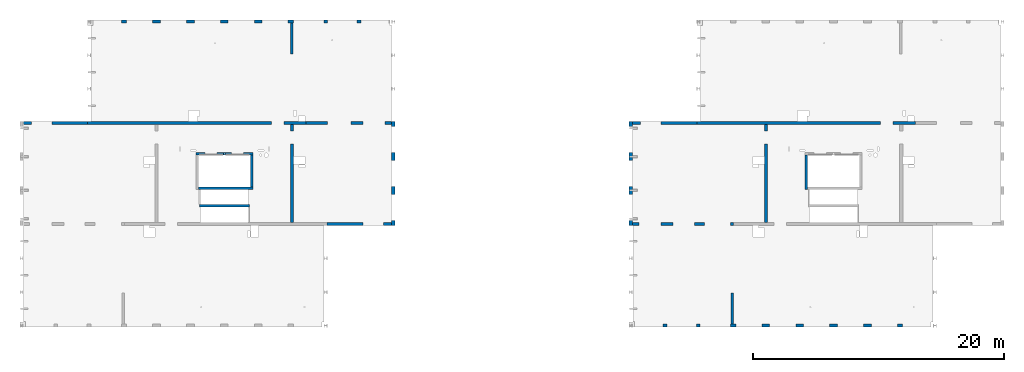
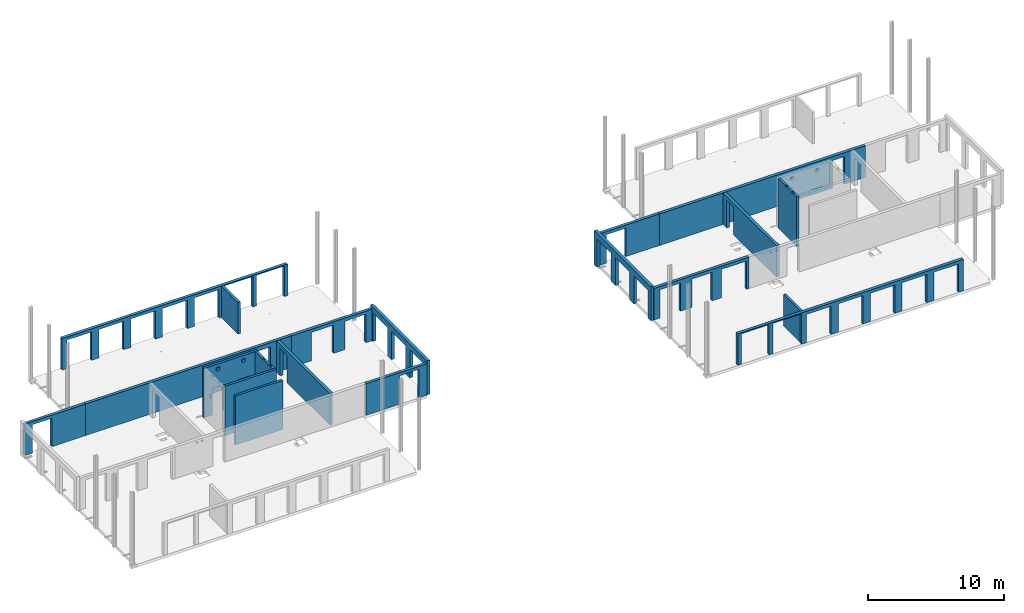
# One storey, part 7 of 10: 20 walls, 46 openings.
"""IFC2X3 building model written with IfcOpenShell, lengths in millimetres."""

from ifc_helpers import new_model, entity, si_unit, converted_unit, derived_unit, direction, frame, frame_2d, origin, origin_2d_with_axis, place, context, subcontext, project, spatial, rectangle, circle, extrude, material, layer, layer_set, layer_usage, type_object, element, save


model = new_model("IFC2X3")

# Units and contexts
model_context = context("Model", 3, precision=0.01, world=origin(), true_north=direction((6.12303176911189e-17, 1.0)))
body_context = subcontext(model_context, "Body", "Model", "MODEL_VIEW")
ifc_project = project(units=[si_unit("LENGTHUNIT", "METRE", prefix="MILLI"), si_unit("AREAUNIT", "SQUARE_METRE"), si_unit("VOLUMEUNIT", "CUBIC_METRE"), converted_unit("PLANEANGLEUNIT", "DEGREE", entity("IfcRatioMeasure", 0.0174532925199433), si_unit("PLANEANGLEUNIT", "RADIAN"), dimensions=[0, 0, 0, 0, 0, 0, 0]), si_unit("MASSUNIT", "GRAM", prefix="KILO"), derived_unit("MASSDENSITYUNIT", [(si_unit("MASSUNIT", "GRAM", prefix="KILO"), 1), (si_unit("LENGTHUNIT", "METRE"), -3)]), si_unit("TIMEUNIT", "SECOND"), si_unit("FREQUENCYUNIT", "HERTZ"), si_unit("THERMODYNAMICTEMPERATUREUNIT", "DEGREE_CELSIUS"), derived_unit("THERMALTRANSMITTANCEUNIT", [(si_unit("MASSUNIT", "GRAM", prefix="KILO"), 1), (si_unit("THERMODYNAMICTEMPERATUREUNIT", "KELVIN"), -1), (si_unit("TIMEUNIT", "SECOND"), -3)]), derived_unit("VOLUMETRICFLOWRATEUNIT", [(si_unit("LENGTHUNIT", "METRE"), 3), (si_unit("TIMEUNIT", "SECOND"), -1)]), si_unit("ELECTRICCURRENTUNIT", "AMPERE"), si_unit("ELECTRICVOLTAGEUNIT", "VOLT"), si_unit("POWERUNIT", "WATT"), si_unit("FORCEUNIT", "NEWTON", prefix="KILO"), si_unit("ILLUMINANCEUNIT", "LUX"), si_unit("LUMINOUSFLUXUNIT", "LUMEN"), si_unit("LUMINOUSINTENSITYUNIT", "CANDELA"), derived_unit("USERDEFINED", [(si_unit("MASSUNIT", "GRAM", prefix="KILO"), -1), (si_unit("LENGTHUNIT", "METRE"), -2), (si_unit("TIMEUNIT", "SECOND"), 3), (si_unit("LUMINOUSFLUXUNIT", "LUMEN"), 1)]), derived_unit("LINEARVELOCITYUNIT", [(si_unit("LENGTHUNIT", "METRE"), 1), (si_unit("TIMEUNIT", "SECOND"), -1)]), si_unit("PRESSUREUNIT", "PASCAL"), derived_unit("USERDEFINED", [(si_unit("LENGTHUNIT", "METRE"), -2), (si_unit("MASSUNIT", "GRAM", prefix="KILO"), 1), (si_unit("TIMEUNIT", "SECOND"), -2)])], contexts=[model_context])

# Site, building, storey
site_placement = place(None, origin())
site = spatial("IfcSite", under=ifc_project, at=site_placement, Name="Default", CompositionType="ELEMENT")
building_placement = place(site_placement, origin())
building = spatial("IfcBuilding", under=site, at=building_placement, Name="niet gebruiken", CompositionType="ELEMENT")
storey_placement = place(building_placement, frame((0.0, 0.0, 63090.0)))
storey = spatial("IfcBuildingStorey", under=building, at=storey_placement, Name="21 eenentwintigste verdieping", CompositionType="ELEMENT", Elevation=63090.0)

# Wall, opening
ifc_material_1 = material(Name="NLRS_f2_beton ihwg")
ifc_layer_1 = layer(ifc_material_1, 250.0)
ifc_layer_set_1 = layer_set([ifc_layer_1], Name="Basic Wall:NLRS_22.21_WA_beton ihwg d=250_gen")
ifc_layer_usage_1 = layer_usage(ifc_layer_set_1, "AXIS2", "NEGATIVE", 125.0)
wall_type_1 = type_object("IfcWallType", Name="Basic Wall:NLRS_22.21_WA_beton ihwg d=250_gen", PredefinedType="STANDARD", material=ifc_layer_set_1)
wall_1_placement = place(storey_placement, frame((75770.0, 45031.0, -90.0)))
wall_1 = element("IfcWallStandardCase", 1, at=wall_1_placement, inside=storey, type_object=wall_type_1, material=ifc_layer_usage_1, Name="Basic Wall:NLRS_22.21_WA_beton ihwg d=250_gen", ObjectType="Basic Wall:NLRS_22.21_WA_beton ihwg d=250_gen", context=body_context, shape_type="SweptSolid", body=[
    extrude(rectangle(XDim=5130.0, YDim=249.999999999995, at=frame_2d((2565.0, 0.0), x_axis=(-1.0, 0.0))), origin(), (0.0, 0.0, 1.0), 2820.00000000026),
])
opening_1_placement = place(wall_1_placement, origin())
element("IfcOpeningElement", 2, at=opening_1_placement, cuts=wall_1, Name="Basic Wall:NLRS_22.21_WA_beton ihwg d=250_gen", ObjectType="Opening", context=body_context, shape_type="SweptSolid", body=[
    extrude(rectangle(XDim=2540.0, YDim=1640.0, at=frame_2d((-4.32009983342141e-12, 4.37694325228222e-12), x_axis=(1.0, 0.0))), frame((1460.0, -1649.0, 1270.0), z_axis=(0.0, 1.0, 0.0), x_axis=(0.0, 0.0, 1.0)), (0.0, 0.0, 1.0), 3048.0),
])

ifc_layer_usage_2 = layer_usage(ifc_layer_set_1, "AXIS2", "NEGATIVE", 125.0)
wall_2_placement = place(storey_placement, frame((86400.0, 44906.0, -90.0), z_axis=(0.0, 0.0, 1.0), x_axis=(0.0, -1.0, 0.0)))
wall_2 = element("IfcWallStandardCase", 3, at=wall_2_placement, inside=storey, type_object=wall_type_1, material=ifc_layer_usage_2, Name="Basic Wall:NLRS_22.21_WA_beton ihwg d=250_gen", ObjectType="Basic Wall:NLRS_22.21_WA_beton ihwg d=250_gen", context=body_context, shape_type="SweptSolid", body=[
    extrude(rectangle(XDim=7799.99999999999, YDim=250.000000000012, at=frame_2d((3900.0, 0.0), x_axis=(-1.0, 0.0))), origin(), (0.0, 0.0, 1.0), 2820.00000000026),
])
opening_2_placement = place(wall_2_placement, origin())
element("IfcOpeningElement", 4, at=opening_2_placement, cuts=wall_2, Name="Basic Wall:NLRS_22.21_WA_beton ihwg d=250_gen", ObjectType="Opening", context=body_context, shape_type="SweptSolid", body=[
    extrude(rectangle(XDim=2470.0, YDim=1006.0, at=frame_2d((4.43378667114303e-12, 0.0), x_axis=(1.0, 0.0))), frame((1027.0, -1649.0, 1235.0), z_axis=(0.0, 1.0, 0.0), x_axis=(0.0, 0.0, 1.0)), (0.0, 0.0, 1.0), 3048.0),
])

# Wall, openings
ifc_layer_usage_3 = layer_usage(ifc_layer_set_1, "AXIS2", "NEGATIVE", 125.0)
wall_3_placement = place(storey_placement, frame((75770.0, 36981.0, -90.0)))
wall_3 = element("IfcWallStandardCase", 5, at=wall_3_placement, inside=storey, type_object=wall_type_1, material=ifc_layer_usage_3, Name="Basic Wall:NLRS_22.21_WA_beton ihwg d=250_gen", ObjectType="Basic Wall:NLRS_22.21_WA_beton ihwg d=250_gen", context=body_context, shape_type="SweptSolid", body=[
    extrude(rectangle(XDim=8060.0, YDim=250.000000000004, at=frame_2d((4030.0, 0.0), x_axis=(-1.0, 0.0))), origin(), (0.0, 0.0, 1.0), 2820.00000000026),
])
opening_3_placement = place(wall_3_placement, origin())
element("IfcOpeningElement", 6, at=opening_3_placement, cuts=wall_3, Name="Basic Wall:NLRS_22.21_WA_beton ihwg d=250_gen", ObjectType="Opening", context=body_context, shape_type="SweptSolid", body=[
    extrude(rectangle(XDim=2540.0, YDim=2110.00000000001, at=frame_2d((-4.32009983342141e-12, 0.0), x_axis=(1.0, 0.0))), frame((6775.0, -1649.0, 1270.0), z_axis=(0.0, 1.0, 0.0), x_axis=(0.0, 0.0, 1.0)), (0.0, 0.0, 1.0), 3048.0),
])
opening_4_placement = place(wall_3_placement, origin())
element("IfcOpeningElement", 7, at=opening_4_placement, cuts=wall_3, Name="Basic Wall:NLRS_22.21_WA_beton ihwg d=250_gen", ObjectType="Opening", context=body_context, shape_type="SweptSolid", body=[
    extrude(rectangle(XDim=2540.0, YDim=1690.0, at=frame_2d((-4.32009983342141e-12, 0.0), x_axis=(1.0, 0.0))), frame((4075.0, -1649.0, 1270.0), z_axis=(0.0, 1.0, 0.0), x_axis=(0.0, 0.0, 1.0)), (0.0, 0.0, 1.0), 3048.0),
])
opening_5_placement = place(wall_3_placement, origin())
element("IfcOpeningElement", 8, at=opening_5_placement, cuts=wall_3, Name="Basic Wall:NLRS_22.21_WA_beton ihwg d=250_gen", ObjectType="Opening", context=body_context, shape_type="SweptSolid", body=[
    extrude(rectangle(XDim=2540.0, YDim=1765.0, at=frame_2d((-4.32009983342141e-12, 0.0), x_axis=(1.0, 0.0))), frame((1382.50000000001, -1649.0, 1270.0), z_axis=(0.0, 1.0, 0.0), x_axis=(0.0, 0.0, 1.0)), (0.0, 0.0, 1.0), 3048.0),
])
opening_6_placement = place(wall_3_placement, origin())
element("IfcOpeningElement", 9, at=opening_6_placement, cuts=wall_3, Name="Basic Wall:NLRS_22.21_WA_beton ihwg d=250_gen", ObjectType="Opening", context=body_context, shape_type="SweptSolid", body=[
    extrude(circle(Radius=80.0, at=origin_2d_with_axis()), frame((9905.00025861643, -125.0, 2590.0), z_axis=(0.0, 1.0, 0.0), x_axis=(1.0, 0.0, 0.0)), (0.0, 0.0, 1.0), 249.999999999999),
])
opening_7_placement = place(wall_3_placement, origin())
element("IfcOpeningElement", 10, at=opening_7_placement, cuts=wall_3, Name="Basic Wall:NLRS_22.21_WA_beton ihwg d=250_gen", ObjectType="Opening", context=body_context, shape_type="SweptSolid", body=[
    extrude(circle(Radius=80.0, at=origin_2d_with_axis()), frame((10355.0002586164, -125.0, 2590.0), z_axis=(0.0, 1.0, 0.0), x_axis=(1.0, 0.0, 0.0)), (0.0, 0.0, 1.0), 249.999999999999),
])
opening_8_placement = place(wall_3_placement, origin())
element("IfcOpeningElement", 11, at=opening_8_placement, cuts=wall_3, Name="Basic Wall:NLRS_22.21_WA_beton ihwg d=250_gen", ObjectType="Opening", context=body_context, shape_type="SweptSolid", body=[
    extrude(circle(Radius=80.0, at=origin_2d_with_axis()), frame((10355.0002586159, -125.0, 2590.0), z_axis=(0.0, 1.0, 0.0), x_axis=(1.0, 0.0, 0.0)), (0.0, 0.0, 1.0), 249.999999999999),
])
opening_9_placement = place(wall_3_placement, origin())
element("IfcOpeningElement", 12, at=opening_9_placement, cuts=wall_3, Name="Basic Wall:NLRS_22.21_WA_beton ihwg d=250_gen", ObjectType="Opening", context=body_context, shape_type="SweptSolid", body=[
    extrude(circle(Radius=80.0, at=origin_2d_with_axis()), frame((9905.00025861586, -125.0, 2590.0), z_axis=(0.0, 1.0, 0.0), x_axis=(1.0, 0.0, 0.0)), (0.0, 0.0, 1.0), 249.999999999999),
])

# Wall, opening
ifc_layer_usage_4 = layer_usage(ifc_layer_set_1, "AXIS2", "NEGATIVE", 125.0)
wall_4_placement = place(storey_placement, frame((27170.0, 45031.0, -90.0)))
wall_4 = element("IfcWallStandardCase", 13, at=wall_4_placement, inside=storey, type_object=wall_type_1, material=ifc_layer_usage_4, Name="Basic Wall:NLRS_22.21_WA_beton ihwg d=250_gen", ObjectType="Basic Wall:NLRS_22.21_WA_beton ihwg d=250_gen", context=body_context, shape_type="SweptSolid", body=[
    extrude(rectangle(XDim=5130.0, YDim=249.999999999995, at=frame_2d((2565.0, 0.0), x_axis=(-1.0, 0.0))), origin(), (0.0, 0.0, 1.0), 2820.00000000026),
])
opening_10_placement = place(wall_4_placement, origin())
element("IfcOpeningElement", 14, at=opening_10_placement, cuts=wall_4, Name="Basic Wall:NLRS_22.21_WA_beton ihwg d=250_gen", ObjectType="Opening", context=body_context, shape_type="SweptSolid", body=[
    extrude(rectangle(XDim=2540.0, YDim=1640.0, at=frame_2d((-4.32009983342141e-12, -4.37694325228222e-12), x_axis=(1.0, 0.0))), frame((1460.0, -1649.0, 1270.0), z_axis=(0.0, 1.0, 0.0), x_axis=(0.0, 0.0, 1.0)), (0.0, 0.0, 1.0), 3048.0),
])

ifc_layer_usage_5 = layer_usage(ifc_layer_set_1, "AXIS2", "NEGATIVE", 125.0)
wall_5_placement = place(storey_placement, frame((48600.0, 44906.0, -90.0), z_axis=(0.0, 0.0, 1.0), x_axis=(0.0, -1.0, 0.0)))
wall_5 = element("IfcWallStandardCase", 15, at=wall_5_placement, inside=storey, type_object=wall_type_1, material=ifc_layer_usage_5, Name="Basic Wall:NLRS_22.21_WA_beton ihwg d=250_gen", ObjectType="Basic Wall:NLRS_22.21_WA_beton ihwg d=250_gen", context=body_context, shape_type="SweptSolid", body=[
    extrude(rectangle(XDim=7799.99999999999, YDim=249.999999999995, at=frame_2d((3900.0, 0.0), x_axis=(-1.0, 0.0))), origin(), (0.0, 0.0, 1.0), 2820.00000000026),
])
opening_11_placement = place(wall_5_placement, origin())
element("IfcOpeningElement", 16, at=opening_11_placement, cuts=wall_5, Name="Basic Wall:NLRS_22.21_WA_beton ihwg d=250_gen", ObjectType="Opening", context=body_context, shape_type="SweptSolid", body=[
    extrude(rectangle(XDim=2470.0, YDim=1006.0, at=frame_2d((4.43378667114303e-12, 0.0), x_axis=(1.0, 0.0))), frame((1027.0, -1649.0, 1235.0), z_axis=(0.0, 1.0, 0.0), x_axis=(0.0, 0.0, 1.0)), (0.0, 0.0, 1.0), 3048.0),
])

ifc_layer_usage_6 = layer_usage(ifc_layer_set_1, "AXIS2", "NEGATIVE", 125.0)
wall_6_placement = place(storey_placement, frame((32300.0, 45031.0, -90.0)))
wall_6 = element("IfcWallStandardCase", 17, at=wall_6_placement, inside=storey, type_object=wall_type_1, material=ifc_layer_usage_6, Name="Basic Wall:NLRS_22.21_WA_beton ihwg d=250_gen", ObjectType="Basic Wall:NLRS_22.21_WA_beton ihwg d=250_gen", context=body_context, shape_type="SweptSolid", body=[
    extrude(rectangle(XDim=17425.0000000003, YDim=249.999999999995, at=frame_2d((8712.50000000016, 0.0), x_axis=(-1.0, 0.0))), origin(), (0.0, 0.0, 1.0), 2820.00000000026),
])
opening_12_placement = place(wall_6_placement, origin())
element("IfcOpeningElement", 18, at=opening_12_placement, cuts=wall_6, Name="Basic Wall:NLRS_22.21_WA_beton ihwg d=250_gen", ObjectType="Opening", context=body_context, shape_type="SweptSolid", body=[
    extrude(rectangle(XDim=2470.0, YDim=1006.0, at=frame_2d((-4.43378667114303e-12, 0.0), x_axis=(1.0, 0.0))), frame((15148.0, -1649.0, 1235.0), z_axis=(0.0, 1.0, 0.0), x_axis=(0.0, 0.0, 1.0)), (0.0, 0.0, 1.0), 3048.0),
])

ifc_layer_usage_7 = layer_usage(ifc_layer_set_1, "AXIS2", "NEGATIVE", 125.0)
wall_7_placement = place(storey_placement, frame((80900.0, 45031.0, -90.0)))
wall_7 = element("IfcWallStandardCase", 19, at=wall_7_placement, inside=storey, type_object=wall_type_1, material=ifc_layer_usage_7, Name="Basic Wall:NLRS_22.21_WA_beton ihwg d=250_gen", ObjectType="Basic Wall:NLRS_22.21_WA_beton ihwg d=250_gen", context=body_context, shape_type="SweptSolid", body=[
    extrude(rectangle(XDim=17425.0000000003, YDim=249.999999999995, at=frame_2d((8712.50000000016, 0.0), x_axis=(-1.0, 0.0))), origin(), (0.0, 0.0, 1.0), 2820.00000000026),
])
opening_13_placement = place(wall_7_placement, origin())
element("IfcOpeningElement", 20, at=opening_13_placement, cuts=wall_7, Name="Basic Wall:NLRS_22.21_WA_beton ihwg d=250_gen", ObjectType="Opening", context=body_context, shape_type="SweptSolid", body=[
    extrude(rectangle(XDim=2470.0, YDim=1006.0, at=frame_2d((-4.43378667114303e-12, -8.66862137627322e-12), x_axis=(1.0, 0.0))), frame((15148.0, -1649.0, 1235.0), z_axis=(0.0, 1.0, 0.0), x_axis=(0.0, 0.0, 1.0)), (0.0, 0.0, 1.0), 3048.0),
])

ifc_layer_usage_8 = layer_usage(ifc_layer_set_1, "AXIS2", "NEGATIVE", 125.0)
wall_8_placement = place(storey_placement, frame((51400.0, 36981.0, -90.0)))
wall_8 = element("IfcWallStandardCase", 21, at=wall_8_placement, inside=storey, type_object=wall_type_1, material=ifc_layer_usage_8, Name="Basic Wall:NLRS_22.21_WA_beton ihwg d=250_gen", ObjectType="Basic Wall:NLRS_22.21_WA_beton ihwg d=250_gen", context=body_context, shape_type="SweptSolid", body=[
    extrude(rectangle(XDim=5150.0, YDim=250.000000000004, at=frame_2d((2575.0, 0.0), x_axis=(-1.0, 0.0))), origin(), (0.0, 0.0, 1.0), 2820.00000000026),
])
opening_14_placement = place(wall_8_placement, origin())
element("IfcOpeningElement", 22, at=opening_14_placement, cuts=wall_8, Name="Basic Wall:NLRS_22.21_WA_beton ihwg d=250_gen", ObjectType="Opening", context=body_context, shape_type="SweptSolid", body=[
    extrude(rectangle(XDim=2540.0, YDim=1640.0, at=frame_2d((-4.32009983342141e-12, 4.37694325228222e-12), x_axis=(1.0, 0.0))), frame((3670.0, -1649.0, 1270.0), z_axis=(0.0, 1.0, 0.0), x_axis=(0.0, 0.0, 1.0)), (0.0, 0.0, 1.0), 3048.0),
])

# Wall, openings
ifc_layer_usage_9 = layer_usage(ifc_layer_set_1, "AXIS2", "NEGATIVE", 125.0)
wall_9_placement = place(storey_placement, frame((49725.0, 45031.0, -90.0)))
wall_9 = element("IfcWallStandardCase", 23, at=wall_9_placement, inside=storey, type_object=wall_type_1, material=ifc_layer_usage_9, Name="Basic Wall:NLRS_22.21_WA_beton ihwg d=250_gen", ObjectType="Basic Wall:NLRS_22.21_WA_beton ihwg d=250_gen", context=body_context, shape_type="SweptSolid", body=[
    extrude(rectangle(XDim=6825.0, YDim=249.999999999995, at=frame_2d((3412.5, 0.0), x_axis=(-1.0, 0.0))), origin(), (0.0, 0.0, 1.0), 2820.00000000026),
])
opening_15_placement = place(wall_9_placement, origin())
element("IfcOpeningElement", 24, at=opening_15_placement, cuts=wall_9, Name="Basic Wall:NLRS_22.21_WA_beton ihwg d=250_gen", ObjectType="Opening", context=body_context, shape_type="SweptSolid", body=[
    extrude(rectangle(XDim=2540.0, YDim=1765.0, at=frame_2d((-4.32009983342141e-12, 0.0), x_axis=(1.0, 0.0))), frame((5422.5000329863, -1649.0, 1270.0), z_axis=(0.0, 1.0, 0.0), x_axis=(0.0, 0.0, 1.0)), (0.0, 0.0, 1.0), 3048.0),
])
opening_16_placement = place(wall_9_placement, origin())
element("IfcOpeningElement", 25, at=opening_16_placement, cuts=wall_9, Name="Basic Wall:NLRS_22.21_WA_beton ihwg d=250_gen", ObjectType="Opening", context=body_context, shape_type="SweptSolid", body=[
    extrude(rectangle(XDim=2540.0, YDim=1885.0, at=frame_2d((-4.32009983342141e-12, -4.32009983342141e-12), x_axis=(1.0, 0.0))), frame((2642.49999999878, -1649.0, 1270.0), z_axis=(0.0, 1.0, 0.0), x_axis=(0.0, 0.0, 1.0)), (0.0, 0.0, 1.0), 3048.0),
])

ifc_material_2 = material(Name="NLRS_f2_beton prefab")
ifc_layer_2 = layer(ifc_material_2, 250.0)
ifc_layer_set_2 = layer_set([ifc_layer_2], Name="Basic Wall:NLRS_21.21_WA_beton prefab d=250_gen")
ifc_layer_usage_10 = layer_usage(ifc_layer_set_2, "AXIS2", "NEGATIVE", 125.0)
wall_type_2 = type_object("IfcWallType", Name="Basic Wall:NLRS_21.21_WA_beton prefab d=250_gen", PredefinedType="STANDARD", material=ifc_layer_set_2)
wall_10_placement = place(storey_placement, frame((75625.0, 45156.0, -70.0), z_axis=(0.0, 0.0, 1.0), x_axis=(0.0, -1.0, 0.0)))
wall_10 = element("IfcWallStandardCase", 26, at=wall_10_placement, inside=storey, type_object=wall_type_2, material=ifc_layer_usage_10, Name="Basic Wall:NLRS_21.21_WA_beton prefab d=250_gen", ObjectType="Basic Wall:NLRS_21.21_WA_beton prefab d=250_gen", context=body_context, shape_type="SweptSolid", body=[
    extrude(rectangle(XDim=8300.0, YDim=249.999999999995, at=frame_2d((4150.0, 0.0), x_axis=(-1.0, 0.0))), origin(), (0.0, 0.0, 1.0), 3050.0),
])
opening_17_placement = place(wall_10_placement, origin())
element("IfcOpeningElement", 27, at=opening_17_placement, cuts=wall_10, Name="Basic Wall:NLRS_21.21_WA_beton prefab d=250_gen", ObjectType="Opening", context=body_context, shape_type="SweptSolid", body=[
    extrude(rectangle(XDim=2540.0, YDim=2080.0, at=frame_2d((0.0, 4.32009983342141e-12), x_axis=(0.0, 1.0))), frame((1450.0, -1399.0, 1250.0), z_axis=(0.0, 1.0, 0.0), x_axis=(-1.0, 0.0, 0.0)), (0.0, 0.0, 1.0), 3048.0),
])
opening_18_placement = place(wall_10_placement, origin())
element("IfcOpeningElement", 28, at=opening_18_placement, cuts=wall_10, Name="Basic Wall:NLRS_21.21_WA_beton prefab d=250_gen", ObjectType="Opening", context=body_context, shape_type="SweptSolid", body=[
    extrude(rectangle(XDim=2540.0, YDim=2080.0, at=frame_2d((0.0, 4.32009983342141e-12), x_axis=(0.0, 1.0))), frame((4150.0, -1399.0, 1250.0), z_axis=(0.0, 1.0, 0.0), x_axis=(-1.0, 0.0, 0.0)), (0.0, 0.0, 1.0), 3048.0),
])
opening_19_placement = place(wall_10_placement, origin())
element("IfcOpeningElement", 29, at=opening_19_placement, cuts=wall_10, Name="Basic Wall:NLRS_21.21_WA_beton prefab d=250_gen", ObjectType="Opening", context=body_context, shape_type="SweptSolid", body=[
    extrude(rectangle(XDim=2540.0, YDim=2080.0, at=frame_2d((0.0, 4.32009983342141e-12), x_axis=(0.0, 1.0))), frame((6850.0, -1399.0, 1250.0), z_axis=(0.0, 1.0, 0.0), x_axis=(-1.0, 0.0, 0.0)), (0.0, 0.0, 1.0), 3048.0),
])

ifc_layer_usage_11 = layer_usage(ifc_layer_set_2, "AXIS2", "POSITIVE", -125.0)
wall_11_placement = place(storey_placement, frame((56675.0, 45156.0, -70.0), z_axis=(0.0, 0.0, 1.0), x_axis=(0.0, -1.0, 0.0)))
wall_11 = element("IfcWallStandardCase", 30, at=wall_11_placement, inside=storey, type_object=wall_type_2, material=ifc_layer_usage_11, Name="Basic Wall:NLRS_21.21_WA_beton prefab d=250_gen", ObjectType="Basic Wall:NLRS_21.21_WA_beton prefab d=250_gen", context=body_context, shape_type="SweptSolid", body=[
    extrude(rectangle(XDim=8300.00000000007, YDim=249.999999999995, at=frame_2d((4150.00000000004, 0.0), x_axis=(-1.0, 0.0))), origin(), (0.0, 0.0, 1.0), 3050.0),
])
opening_20_placement = place(wall_11_placement, origin())
element("IfcOpeningElement", 31, at=opening_20_placement, cuts=wall_11, Name="Basic Wall:NLRS_21.21_WA_beton prefab d=250_gen", ObjectType="Opening", context=body_context, shape_type="SweptSolid", body=[
    extrude(rectangle(XDim=2540.0, YDim=2080.0, at=frame_2d((0.0, 4.32009983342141e-12), x_axis=(0.0, 1.0))), frame((1450.0, -1649.0, 1250.0), z_axis=(0.0, 1.0, 0.0), x_axis=(-1.0, 0.0, 0.0)), (0.0, 0.0, 1.0), 3048.0),
])
opening_21_placement = place(wall_11_placement, origin())
element("IfcOpeningElement", 32, at=opening_21_placement, cuts=wall_11, Name="Basic Wall:NLRS_21.21_WA_beton prefab d=250_gen", ObjectType="Opening", context=body_context, shape_type="SweptSolid", body=[
    extrude(rectangle(XDim=2540.0, YDim=2080.0, at=frame_2d((0.0, 4.32009983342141e-12), x_axis=(0.0, 1.0))), frame((4150.0, -1649.0, 1250.0), z_axis=(0.0, 1.0, 0.0), x_axis=(-1.0, 0.0, 0.0)), (0.0, 0.0, 1.0), 3048.0),
])
opening_22_placement = place(wall_11_placement, origin())
element("IfcOpeningElement", 33, at=opening_22_placement, cuts=wall_11, Name="Basic Wall:NLRS_21.21_WA_beton prefab d=250_gen", ObjectType="Opening", context=body_context, shape_type="SweptSolid", body=[
    extrude(rectangle(XDim=2540.0, YDim=2080.0, at=frame_2d((0.0, 4.32009983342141e-12), x_axis=(0.0, 1.0))), frame((6850.0, -1649.0, 1250.0), z_axis=(0.0, 1.0, 0.0), x_axis=(-1.0, 0.0, 0.0)), (0.0, 0.0, 1.0), 3048.0),
])

# Wall
ifc_layer_3 = layer(ifc_material_2, 200.0)
ifc_layer_set_3 = layer_set([ifc_layer_3], Name="Basic Wall:NLRS_21.21_WA_beton prefab d=200_gen")
ifc_layer_usage_12 = layer_usage(ifc_layer_set_3, "AXIS2", "NEGATIVE", 100.0)
wall_type_3 = type_object("IfcWallType", Name="Basic Wall:NLRS_21.21_WA_beton prefab d=200_gen", PredefinedType="STANDARD", material=ifc_layer_set_3)
wall_12_placement = place(storey_placement, frame((41200.0, 38426.0, -70.0)))
element("IfcWallStandardCase", 34, at=wall_12_placement, inside=storey, type_object=wall_type_3, material=ifc_layer_usage_12, Name="Basic Wall:NLRS_21.21_WA_beton prefab d=200_gen", ObjectType="Basic Wall:NLRS_21.21_WA_beton prefab d=200_gen", context=body_context, shape_type="SweptSolid", body=[
    extrude(rectangle(XDim=3999.99999999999, YDim=199.999999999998, at=frame_2d((2000.0, -2.48689957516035e-13), x_axis=(-1.0, 0.0))), origin(), (0.0, 0.0, 1.0), 4390.00000000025),
])

# Wall, openings
ifc_layer_4 = layer(ifc_material_2, 200.0)
ifc_layer_set_4 = layer_set([ifc_layer_4], Name="Basic Wall:NLRS_22.21_WA_beton prefab d=200_gen")
ifc_layer_usage_13 = layer_usage(ifc_layer_set_4, "AXIS2", "NEGATIVE", 100.0)
wall_type_4 = type_object("IfcWallType", Name="Basic Wall:NLRS_22.21_WA_beton prefab d=200_gen", PredefinedType="STANDARD", material=ifc_layer_set_4)
wall_13_placement = place(storey_placement, frame((89625.0, 42496.0, -70.0), z_axis=(0.0, 0.0, 1.0), x_axis=(0.0, -1.0, 0.0)))
wall_13 = element("IfcWallStandardCase", 35, at=wall_13_placement, inside=storey, type_object=wall_type_4, material=ifc_layer_usage_13, Name="Basic Wall:NLRS_22.21_WA_beton prefab d=200_gen", ObjectType="Basic Wall:NLRS_22.21_WA_beton prefab d=200_gen", context=body_context, shape_type="SweptSolid", body=[
    extrude(rectangle(XDim=2749.99999999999, YDim=199.999999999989, at=frame_2d((1375.0, 0.0), x_axis=(-1.0, 0.0))), origin(), (0.0, 0.0, 1.0), 4420.00000000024),
])
opening_23_placement = place(wall_13_placement, origin())
element("IfcOpeningElement", 36, at=opening_23_placement, cuts=wall_13, Name="Basic Wall:NLRS_22.21_WA_beton prefab d=200_gen", ObjectType="Opening", context=body_context, shape_type="SweptSolid", body=[
    extrude(rectangle(XDim=140.000000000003, YDim=200.000000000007, at=frame_2d((0.0, 0.0), x_axis=(0.0, 1.0))), frame((1133.0, -1424.0, 4450.0), z_axis=(0.0, 1.0, 0.0), x_axis=(-1.0, 0.0, 0.0)), (0.0, 0.0, 1.0), 3048.0),
])
opening_24_placement = place(wall_13_placement, origin())
element("IfcOpeningElement", 37, at=opening_24_placement, cuts=wall_13, Name="Basic Wall:NLRS_22.21_WA_beton prefab d=200_gen", ObjectType="Opening", context=body_context, shape_type="SweptSolid", body=[
    extrude(rectangle(XDim=140.000000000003, YDim=199.999999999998, at=frame_2d((4.33431068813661e-12, 0.0), x_axis=(0.0, 1.0))), frame((2083.0, -1424.0, 4450.0), z_axis=(0.0, 1.0, 0.0), x_axis=(-1.0, 0.0, 0.0)), (0.0, 0.0, 1.0), 3048.0),
])

ifc_layer_usage_14 = layer_usage(ifc_layer_set_4, "AXIS2", "NEGATIVE", 100.0)
wall_14_placement = place(storey_placement, frame((40925.0, 42596.0, -70.0)))
wall_14 = element("IfcWallStandardCase", 38, at=wall_14_placement, inside=storey, type_object=wall_type_4, material=ifc_layer_usage_14, Name="Basic Wall:NLRS_22.21_WA_beton prefab d=200_gen", ObjectType="Basic Wall:NLRS_22.21_WA_beton prefab d=200_gen", context=body_context, shape_type="SweptSolid", body=[
    extrude(rectangle(XDim=4549.99999999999, YDim=200.000000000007, at=frame_2d((2274.99999999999, 7.8159700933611e-13), x_axis=(-1.0, 0.0))), origin(), (0.0, 0.0, 1.0), 4420.00000000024),
])
opening_25_placement = place(wall_14_placement, origin())
element("IfcOpeningElement", 39, at=opening_25_placement, cuts=wall_14, Name="Basic Wall:NLRS_22.21_WA_beton prefab d=200_gen", ObjectType="Opening", context=body_context, shape_type="SweptSolid", body=[
    extrude(rectangle(XDim=2430.0, YDim=980.000000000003, at=origin_2d_with_axis()), frame((3329.99984910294, -1624.0, 1195.0), z_axis=(0.0, 1.0, 0.0), x_axis=(0.0, 0.0, 1.0)), (0.0, 0.0, 1.0), 3048.0),
])
opening_26_placement = place(wall_14_placement, origin())
element("IfcOpeningElement", 40, at=opening_26_placement, cuts=wall_14, Name="Basic Wall:NLRS_22.21_WA_beton prefab d=200_gen", ObjectType="Opening", context=body_context, shape_type="SweptSolid", body=[
    extrude(rectangle(XDim=2430.0, YDim=980.000000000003, at=origin_2d_with_axis()), frame((1219.99984910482, -1624.0, 1195.0), z_axis=(0.0, 1.0, 0.0), x_axis=(0.0, 0.0, 1.0)), (0.0, 0.0, 1.0), 3048.0),
])
opening_27_placement = place(wall_14_placement, origin())
element("IfcOpeningElement", 41, at=opening_27_placement, cuts=wall_14, Name="Basic Wall:NLRS_22.21_WA_beton prefab d=200_gen", ObjectType="Opening", context=body_context, shape_type="SweptSolid", body=[
    extrude(rectangle(XDim=515.000000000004, YDim=159.999999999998, at=origin_2d_with_axis()), frame((2275.0, -1624.0, 1277.50000000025), z_axis=(0.0, 1.0, 0.0), x_axis=(0.0, 0.0, 1.0)), (0.0, 0.0, 1.0), 3048.0),
])
opening_28_placement = place(wall_14_placement, origin())
element("IfcOpeningElement", 42, at=opening_28_placement, cuts=wall_14, Name="Basic Wall:NLRS_22.21_WA_beton prefab d=200_gen", ObjectType="Opening", context=body_context, shape_type="SweptSolid", body=[
    extrude(rectangle(XDim=370.000000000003, YDim=89.9999999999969, at=frame_2d((8.66862137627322e-12, 0.0), x_axis=(1.0, 0.0))), frame((569.999849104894, -1424.0, 1755.0), z_axis=(0.0, 1.0, 0.0), x_axis=(0.0, 0.0, 1.0)), (0.0, 0.0, 1.0), 3048.0),
])
opening_29_placement = place(wall_14_placement, origin())
element("IfcOpeningElement", 43, at=opening_29_placement, cuts=wall_14, Name="Basic Wall:NLRS_22.21_WA_beton prefab d=200_gen", ObjectType="Opening", context=body_context, shape_type="SweptSolid", body=[
    extrude(circle(Radius=175.0, at=origin_2d_with_axis()), frame((1200.0, -100.0, 3980.0), z_axis=(0.0, 1.0, 0.0), x_axis=(1.0, 0.0, 0.0)), (0.0, 0.0, 1.0), 199.999999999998),
])
opening_30_placement = place(wall_14_placement, origin())
element("IfcOpeningElement", 44, at=opening_30_placement, cuts=wall_14, Name="Basic Wall:NLRS_22.21_WA_beton prefab d=200_gen", ObjectType="Opening", context=body_context, shape_type="SweptSolid", body=[
    extrude(circle(Radius=175.0, at=origin_2d_with_axis()), frame((3350.0, -100.0, 3980.0), z_axis=(0.0, 1.0, 0.0), x_axis=(1.0, 0.0, 0.0)), (0.0, 0.0, 1.0), 199.999999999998),
])

# Wall
ifc_layer_usage_15 = layer_usage(ifc_layer_set_4, "AXIS2", "NEGATIVE", 100.0)
wall_15_placement = place(storey_placement, frame((45475.0, 39846.0, -70.0), z_axis=(0.0, 0.0, 1.0), x_axis=(-1.0, 0.0, 0.0)))
element("IfcWallStandardCase", 45, at=wall_15_placement, inside=storey, type_object=wall_type_4, material=ifc_layer_usage_15, Name="Basic Wall:NLRS_22.21_WA_beton prefab d=200_gen", ObjectType="Basic Wall:NLRS_22.21_WA_beton prefab d=200_gen", context=body_context, shape_type="SweptSolid", body=[
    extrude(rectangle(XDim=4349.99999999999, YDim=200.000000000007, at=frame_2d((2174.99999999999, 0.0), x_axis=(-1.0, 0.0))), origin(), (0.0, 0.0, 1.0), 4420.00000000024),
])

# Wall, openings
ifc_layer_usage_16 = layer_usage(ifc_layer_set_4, "AXIS2", "NEGATIVE", 100.0)
wall_16_placement = place(storey_placement, frame((45375.0, 39946.0, -70.0), z_axis=(0.0, 0.0, 1.0), x_axis=(0.0, 1.0, 0.0)))
wall_16 = element("IfcWallStandardCase", 46, at=wall_16_placement, inside=storey, type_object=wall_type_4, material=ifc_layer_usage_16, Name="Basic Wall:NLRS_22.21_WA_beton prefab d=200_gen", ObjectType="Basic Wall:NLRS_22.21_WA_beton prefab d=200_gen", context=body_context, shape_type="SweptSolid", body=[
    extrude(rectangle(XDim=2549.99999999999, YDim=200.000000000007, at=frame_2d((1275.0, 0.0), x_axis=(-1.0, 0.0))), origin(), (0.0, 0.0, 1.0), 4420.00000000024),
])
opening_31_placement = place(wall_16_placement, origin())
element("IfcOpeningElement", 47, at=opening_31_placement, cuts=wall_16, Name="Basic Wall:NLRS_22.21_WA_beton prefab d=200_gen", ObjectType="Opening", context=body_context, shape_type="SweptSolid", body=[
    extrude(rectangle(XDim=140.000000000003, YDim=199.999999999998, at=frame_2d((0.0, -4.33431068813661e-12), x_axis=(1.0, 0.0))), frame((1417.0, -1624.0, 4450.0), z_axis=(0.0, 1.0, 0.0), x_axis=(0.0, 0.0, 1.0)), (0.0, 0.0, 1.0), 3048.0),
])
opening_32_placement = place(wall_16_placement, origin())
element("IfcOpeningElement", 48, at=opening_32_placement, cuts=wall_16, Name="Basic Wall:NLRS_22.21_WA_beton prefab d=200_gen", ObjectType="Opening", context=body_context, shape_type="SweptSolid", body=[
    extrude(rectangle(XDim=140.000000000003, YDim=199.999999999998, at=frame_2d((0.0, -4.33431068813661e-12), x_axis=(1.0, 0.0))), frame((467.0, -1624.0, 4450.0), z_axis=(0.0, 1.0, 0.0), x_axis=(0.0, 0.0, 1.0)), (0.0, 0.0, 1.0), 3048.0),
])

ifc_layer_5 = layer(ifc_material_1, 250.0)
ifc_layer_set_5 = layer_set([ifc_layer_5], Name="Basic Wall:NLRS_21.21_WA_beton ihwg d=250_gen")
ifc_layer_usage_17 = layer_usage(ifc_layer_set_5, "AXIS2", "NEGATIVE", 125.0)
wall_type_5 = type_object("IfcWallType", Name="Basic Wall:NLRS_21.21_WA_beton ihwg d=250_gen", PredefinedType="STANDARD", material=ifc_layer_set_5)
wall_17_placement = place(storey_placement, frame((78200.0, 28881.0, -90.0)))
wall_17 = element("IfcWallStandardCase", 49, at=wall_17_placement, inside=storey, type_object=wall_type_5, material=ifc_layer_usage_17, Name="Basic Wall:NLRS_21.21_WA_beton ihwg d=250_gen", ObjectType="Basic Wall:NLRS_21.21_WA_beton ihwg d=250_gen", context=body_context, shape_type="SweptSolid", body=[
    extrude(rectangle(XDim=19099.9999999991, YDim=250.000000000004, at=frame_2d((9549.99999999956, 0.0), x_axis=(-1.0, 0.0))), origin(), (0.0, 0.0, 1.0), 2819.99999999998),
])
opening_33_placement = place(wall_17_placement, origin())
element("IfcOpeningElement", 50, at=opening_33_placement, cuts=wall_17, Name="Basic Wall:NLRS_21.21_WA_beton ihwg d=250_gen", ObjectType="Opening", context=body_context, shape_type="SweptSolid", body=[
    extrude(rectangle(XDim=2540.0, YDim=2080.0, at=frame_2d((-8.64019966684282e-12, 4.32009983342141e-12), x_axis=(0.0, 1.0))), frame((17650.0, -1399.0, 1270.0), z_axis=(0.0, 1.0, 0.0), x_axis=(-1.0, 0.0, 0.0)), (0.0, 0.0, 1.0), 3048.0),
])
opening_34_placement = place(wall_17_placement, origin())
element("IfcOpeningElement", 51, at=opening_34_placement, cuts=wall_17, Name="Basic Wall:NLRS_21.21_WA_beton ihwg d=250_gen", ObjectType="Opening", context=body_context, shape_type="SweptSolid", body=[
    extrude(rectangle(XDim=2540.0, YDim=2080.0, at=frame_2d((-8.64019966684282e-12, 4.32009983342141e-12), x_axis=(0.0, 1.0))), frame((14950.0, -1399.0, 1270.0), z_axis=(0.0, 1.0, 0.0), x_axis=(-1.0, 0.0, 0.0)), (0.0, 0.0, 1.0), 3048.0),
])
opening_35_placement = place(wall_17_placement, origin())
element("IfcOpeningElement", 52, at=opening_35_placement, cuts=wall_17, Name="Basic Wall:NLRS_21.21_WA_beton ihwg d=250_gen", ObjectType="Opening", context=body_context, shape_type="SweptSolid", body=[
    extrude(rectangle(XDim=2540.0, YDim=2080.0, at=frame_2d((8.64019966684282e-12, 4.32009983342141e-12), x_axis=(0.0, 1.0))), frame((12250.0, -1399.0, 1270.0), z_axis=(0.0, 1.0, 0.0), x_axis=(-1.0, 0.0, 0.0)), (0.0, 0.0, 1.0), 3048.0),
])
opening_36_placement = place(wall_17_placement, origin())
element("IfcOpeningElement", 53, at=opening_36_placement, cuts=wall_17, Name="Basic Wall:NLRS_21.21_WA_beton ihwg d=250_gen", ObjectType="Opening", context=body_context, shape_type="SweptSolid", body=[
    extrude(rectangle(XDim=2540.0, YDim=2080.0, at=frame_2d((-8.64019966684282e-12, 4.32009983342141e-12), x_axis=(0.0, 1.0))), frame((9550.0, -1399.0, 1270.0), z_axis=(0.0, 1.0, 0.0), x_axis=(-1.0, 0.0, 0.0)), (0.0, 0.0, 1.0), 3048.0),
])
opening_37_placement = place(wall_17_placement, origin())
element("IfcOpeningElement", 54, at=opening_37_placement, cuts=wall_17, Name="Basic Wall:NLRS_21.21_WA_beton ihwg d=250_gen", ObjectType="Opening", context=body_context, shape_type="SweptSolid", body=[
    extrude(rectangle(XDim=2540.0, YDim=2080.0, at=frame_2d((-8.64019966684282e-12, 4.32009983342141e-12), x_axis=(0.0, 1.0))), frame((6850.0, -1399.0, 1270.0), z_axis=(0.0, 1.0, 0.0), x_axis=(-1.0, 0.0, 0.0)), (0.0, 0.0, 1.0), 3048.0),
])
opening_38_placement = place(wall_17_placement, origin())
element("IfcOpeningElement", 55, at=opening_38_placement, cuts=wall_17, Name="Basic Wall:NLRS_21.21_WA_beton ihwg d=250_gen", ObjectType="Opening", context=body_context, shape_type="SweptSolid", body=[
    extrude(rectangle(XDim=2720.00000000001, YDim=2450.0, at=frame_2d((0.0, 0.0), x_axis=(0.0, 1.0))), frame((4175.0, -1399.0, 1360.0), z_axis=(0.0, 1.0, 0.0), x_axis=(-1.0, 0.0, 0.0)), (0.0, 0.0, 1.0), 3048.0),
])
opening_39_placement = place(wall_17_placement, origin())
element("IfcOpeningElement", 56, at=opening_39_placement, cuts=wall_17, Name="Basic Wall:NLRS_21.21_WA_beton ihwg d=250_gen", ObjectType="Opening", context=body_context, shape_type="SweptSolid", body=[
    extrude(rectangle(XDim=2720.00000000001, YDim=2350.0, at=frame_2d((8.64019966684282e-12, 0.0), x_axis=(0.0, 1.0))), frame((1475.0, -1399.0, 1360.0), z_axis=(0.0, 1.0, 0.0), x_axis=(-1.0, 0.0, 0.0)), (0.0, 0.0, 1.0), 3048.0),
])

ifc_layer_usage_18 = layer_usage(ifc_layer_set_5, "AXIS2", "NEGATIVE", 125.0)
wall_18_placement = place(storey_placement, frame((54100.0, 53131.0, -90.0), z_axis=(0.0, 0.0, 1.0), x_axis=(-1.0, 0.0, 0.0)))
wall_18 = element("IfcWallStandardCase", 57, at=wall_18_placement, inside=storey, type_object=wall_type_5, material=ifc_layer_usage_18, Name="Basic Wall:NLRS_21.21_WA_beton ihwg d=250_gen", ObjectType="Basic Wall:NLRS_21.21_WA_beton ihwg d=250_gen", context=body_context, shape_type="SweptSolid", body=[
    extrude(rectangle(XDim=19100.0, YDim=249.999999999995, at=frame_2d((9549.99999999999, 7.105427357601e-13), x_axis=(-1.0, 0.0))), origin(), (0.0, 0.0, 1.0), 2819.99999999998),
])
opening_40_placement = place(wall_18_placement, origin())
element("IfcOpeningElement", 58, at=opening_40_placement, cuts=wall_18, Name="Basic Wall:NLRS_21.21_WA_beton ihwg d=250_gen", ObjectType="Opening", context=body_context, shape_type="SweptSolid", body=[
    extrude(rectangle(XDim=2540.0, YDim=2080.0, at=frame_2d((2.1600499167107e-12, 4.32009983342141e-12), x_axis=(0.0, 1.0))), frame((17650.0, -1399.0, 1270.0), z_axis=(0.0, 1.0, 0.0), x_axis=(-1.0, 0.0, 0.0)), (0.0, 0.0, 1.0), 3048.0),
])
opening_41_placement = place(wall_18_placement, origin())
element("IfcOpeningElement", 59, at=opening_41_placement, cuts=wall_18, Name="Basic Wall:NLRS_21.21_WA_beton ihwg d=250_gen", ObjectType="Opening", context=body_context, shape_type="SweptSolid", body=[
    extrude(rectangle(XDim=2540.0, YDim=2079.99999999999, at=frame_2d((2.1600499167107e-12, 4.32009983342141e-12), x_axis=(0.0, 1.0))), frame((14950.0, -1399.0, 1270.0), z_axis=(0.0, 1.0, 0.0), x_axis=(-1.0, 0.0, 0.0)), (0.0, 0.0, 1.0), 3048.0),
])
opening_42_placement = place(wall_18_placement, origin())
element("IfcOpeningElement", 60, at=opening_42_placement, cuts=wall_18, Name="Basic Wall:NLRS_21.21_WA_beton ihwg d=250_gen", ObjectType="Opening", context=body_context, shape_type="SweptSolid", body=[
    extrude(rectangle(XDim=2540.0, YDim=2080.0, at=frame_2d((0.0, 4.32009983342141e-12), x_axis=(0.0, 1.0))), frame((12250.0, -1399.0, 1270.0), z_axis=(0.0, 1.0, 0.0), x_axis=(-1.0, 0.0, 0.0)), (0.0, 0.0, 1.0), 3048.0),
])
opening_43_placement = place(wall_18_placement, origin())
element("IfcOpeningElement", 61, at=opening_43_placement, cuts=wall_18, Name="Basic Wall:NLRS_21.21_WA_beton ihwg d=250_gen", ObjectType="Opening", context=body_context, shape_type="SweptSolid", body=[
    extrude(rectangle(XDim=2540.0, YDim=2080.0, at=frame_2d((0.0, 4.32009983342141e-12), x_axis=(0.0, 1.0))), frame((9550.0, -1399.0, 1270.0), z_axis=(0.0, 1.0, 0.0), x_axis=(-1.0, 0.0, 0.0)), (0.0, 0.0, 1.0), 3048.0),
])
opening_44_placement = place(wall_18_placement, origin())
element("IfcOpeningElement", 62, at=opening_44_placement, cuts=wall_18, Name="Basic Wall:NLRS_21.21_WA_beton ihwg d=250_gen", ObjectType="Opening", context=body_context, shape_type="SweptSolid", body=[
    extrude(rectangle(XDim=2540.0, YDim=2080.0, at=frame_2d((0.0, 4.32009983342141e-12), x_axis=(0.0, 1.0))), frame((6850.0, -1399.0, 1270.0), z_axis=(0.0, 1.0, 0.0), x_axis=(-1.0, 0.0, 0.0)), (0.0, 0.0, 1.0), 3048.0),
])
opening_45_placement = place(wall_18_placement, origin())
element("IfcOpeningElement", 63, at=opening_45_placement, cuts=wall_18, Name="Basic Wall:NLRS_21.21_WA_beton ihwg d=250_gen", ObjectType="Opening", context=body_context, shape_type="SweptSolid", body=[
    extrude(rectangle(XDim=2720.00000000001, YDim=2450.0, at=frame_2d((0.0, 0.0), x_axis=(0.0, 1.0))), frame((4175.0, -1399.0, 1360.0), z_axis=(0.0, 1.0, 0.0), x_axis=(-1.0, 0.0, 0.0)), (0.0, 0.0, 1.0), 3048.0),
])
opening_46_placement = place(wall_18_placement, origin())
element("IfcOpeningElement", 64, at=opening_46_placement, cuts=wall_18, Name="Basic Wall:NLRS_21.21_WA_beton ihwg d=250_gen", ObjectType="Opening", context=body_context, shape_type="SweptSolid", body=[
    extrude(rectangle(XDim=2720.00000000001, YDim=2350.0, at=frame_2d((0.0, 0.0), x_axis=(0.0, 1.0))), frame((1475.0, -1399.0, 1360.0), z_axis=(0.0, 1.0, 0.0), x_axis=(-1.0, 0.0, 0.0)), (0.0, 0.0, 1.0), 3048.0),
])

# Walls
ifc_layer_6 = layer(ifc_material_1, 200.0)
ifc_layer_set_6 = layer_set([ifc_layer_6], Name="Basic Wall:NLRS_22.21_WA_beton ihwg d=200_gen")
ifc_layer_usage_19 = layer_usage(ifc_layer_set_6, "AXIS2", "NEGATIVE", 100.0)
wall_type_6 = type_object("IfcWallType", Name="Basic Wall:NLRS_22.21_WA_beton ihwg d=200_gen", PredefinedType="STANDARD", material=ifc_layer_set_6)
wall_19_placement = place(storey_placement, frame((48573.0, 50546.0, -90.0), z_axis=(0.0, 0.0, 1.0), x_axis=(0.0, 1.0, 0.0)))
element("IfcWallStandardCase", 65, at=wall_19_placement, inside=storey, type_object=wall_type_6, material=ifc_layer_usage_19, Name="Basic Wall:NLRS_22.21_WA_beton ihwg d=200_gen", ObjectType="Basic Wall:NLRS_22.21_WA_beton ihwg d=200_gen", context=body_context, shape_type="SweptSolid", body=[
    extrude(rectangle(XDim=2460.00000000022, YDim=200.000000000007, at=frame_2d((1230.00000000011, -7.38964445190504e-13), x_axis=(-1.0, 0.0))), origin(), (0.0, 0.0, 1.0), 2820.00000000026),
])
ifc_layer_usage_20 = layer_usage(ifc_layer_set_6, "AXIS2", "NEGATIVE", 100.0)
wall_20_placement = place(storey_placement, frame((83727.0, 31466.0, -90.0), z_axis=(0.0, 0.0, 1.0), x_axis=(0.0, -1.0, 0.0)))
element("IfcWallStandardCase", 66, at=wall_20_placement, inside=storey, type_object=wall_type_6, material=ifc_layer_usage_20, Name="Basic Wall:NLRS_22.21_WA_beton ihwg d=200_gen", ObjectType="Basic Wall:NLRS_22.21_WA_beton ihwg d=200_gen", context=body_context, shape_type="SweptSolid", body=[
    extrude(rectangle(XDim=2460.0, YDim=199.999999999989, at=frame_2d((1230.0, 2.73558953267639e-12), x_axis=(-1.0, 0.0))), origin(), (0.0, 0.0, 1.0), 2820.00000000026),
])

save(model, "model.ifc")
